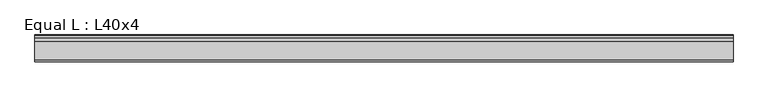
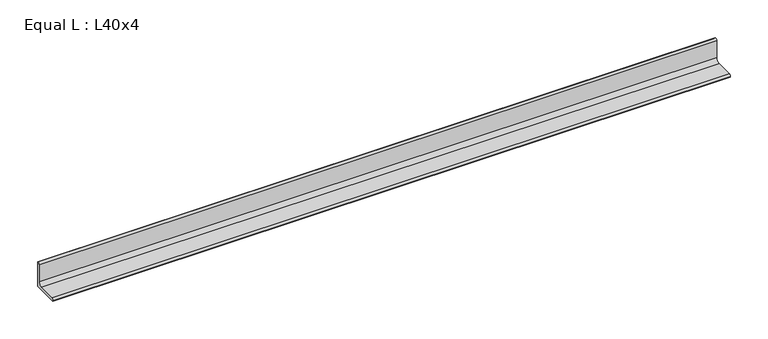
"""IFC4 building model written with IfcOpenShell, lengths in millimetres: beam geometry, Equal L : L40x4."""

import ifcopenshell
import ifcopenshell.guid

model = None  # the IFC model being written
_history = None  # IfcOwnerHistory: only IFC2X3 demands one
_inside = {}  # id of a spatial element -> (the spatial element, [elements in it])
_under = {}  # id of a project, library or spatial element -> (it, [spatial elements below it])
_declared = {}  # id of a project -> (the project, [libraries it declares])
_typed = {}  # id of a type object -> (the type object, [elements of that type])
_made_of = {}  # id of a material, layer set ... -> (it, [elements and type objects made of it])


def new_model(schema):
    """Start an empty IFC model of exactly this schema.

    Asked for "IFC4X3", IfcOpenShell would pick the latest addendum, in which some entities
    have other attributes; the version numbers below select the first issue.
    IFC2X3 requires an IfcOwnerHistory on every rooted entity: one is made here for all.
    """
    global model, _history
    if schema == "IFC4X3":
        model = ifcopenshell.file(schema_version=(4, 3, 0, 0))
    else:
        model = ifcopenshell.file(schema=schema)
    _inside.clear()
    _under.clear()
    _declared.clear()
    _typed.clear()
    _made_of.clear()
    _history = None
    if model.schema == "IFC2X3":
        org = make("IfcOrganization", Name="unknown")
        user = make(
            "IfcPersonAndOrganization",
            ThePerson=make("IfcPerson", FamilyName="unknown"),
            TheOrganization=org,
        )
        app = make(
            "IfcApplication",
            ApplicationDeveloper=org,
            Version="unknown",
            ApplicationFullName="unknown",
            ApplicationIdentifier="unknown",
        )
        _history = make(
            "IfcOwnerHistory",
            OwningUser=user,
            OwningApplication=app,
            ChangeAction="ADDED",
            CreationDate=0,
        )
    return model


def make(cls, **values):
    """One entity of the class cls with the attributes given. An attribute that is None is left unset."""
    return model.create_entity(
        cls, **{name: value for name, value in values.items() if value is not None}
    )


def rooted(cls, **values):
    """An entity with a GlobalId (a new one), such as an element, a storey or a relation."""
    return make(cls, GlobalId=ifcopenshell.guid.new(), OwnerHistory=_history, **values)


def si_unit(unit_type, name, prefix=None):
    """IfcSIUnit, for example si_unit("LENGTHUNIT", "METRE", prefix="MILLI")."""
    return make("IfcSIUnit", UnitType=unit_type, Prefix=prefix, Name=name)


def assignment(units):
    """IfcUnitAssignment: the units of a project."""
    return None if units is None else make("IfcUnitAssignment", Units=units)


def point(xyz):
    """IfcCartesianPoint."""
    return None if xyz is None else make("IfcCartesianPoint", Coordinates=xyz)


def direction(xyz):
    """IfcDirection."""
    return None if xyz is None else make("IfcDirection", DirectionRatios=xyz)


def frame(location, z_axis=None, x_axis=None):
    """IfcAxis2Placement3D, a coordinate frame: its origin and axes. An axis left out is left unset."""
    return make(
        "IfcAxis2Placement3D",
        Location=point(location),
        Axis=direction(z_axis),
        RefDirection=direction(x_axis),
    )


def frame_2d(location, x_axis=None):
    """IfcAxis2Placement2D, a coordinate frame in the plane: its origin and x axis."""
    return make(
        "IfcAxis2Placement2D", Location=point(location), RefDirection=direction(x_axis)
    )


def origin():
    """The frame at (0, 0, 0) with its axes left unset."""
    return frame((0.0, 0.0, 0.0))


def place(relative_to, where):
    """IfcLocalPlacement: puts the frame where relative to a parent placement (None: the world)."""
    return make(
        "IfcLocalPlacement", PlacementRelTo=relative_to, RelativePlacement=where
    )


def context(
    kind, dimensions, precision=None, world=None, true_north=None, identifier=None
):
    """IfcGeometricRepresentationContext, for example the 3D "Model" context."""
    return make(
        "IfcGeometricRepresentationContext",
        ContextIdentifier=identifier,
        ContextType=kind,
        CoordinateSpaceDimension=dimensions,
        Precision=precision,
        WorldCoordinateSystem=world,
        TrueNorth=true_north,
    )


def project(units=None, contexts=None):
    """IfcProject with its units and contexts."""
    return rooted(
        "IfcProject",
        Name="project",
        RepresentationContexts=contexts,
        UnitsInContext=assignment(units),
    )


def spatial(cls, under=None, at=None, **own):
    """A site, building, storey or space (cls), placed at a placement, below another one or the project."""
    s = rooted(cls, ObjectPlacement=at, **own)
    if under is not None:
        _under.setdefault(under.id(), (under, []))[1].append(s)
    return s


def polyline(points):
    """IfcPolyline through the points."""
    return make("IfcPolyline", Points=[point(p) for p in points])


def circle_curve(where, radius):
    """IfcCircle in the frame where."""
    return make("IfcCircle", Position=where, Radius=radius)


def trimmed(basis, trim1, trim2, sense, master):
    """IfcTrimmedCurve: the piece of a basis curve between two trims."""
    return make(
        "IfcTrimmedCurve",
        BasisCurve=basis,
        Trim1=trim1,
        Trim2=trim2,
        SenseAgreement=sense,
        MasterRepresentation=master,
    )


def segment(curve, same_sense, transition):
    """IfcCompositeCurveSegment."""
    return make(
        "IfcCompositeCurveSegment",
        Transition=transition,
        SameSense=same_sense,
        ParentCurve=curve,
    )


def composite_curve(segments, self_intersect=None):
    """IfcCompositeCurve: segments joined end to end."""
    return make("IfcCompositeCurve", Segments=segments, SelfIntersect=self_intersect)


def outline(outer, holes=None, kind="AREA"):
    """IfcArbitraryClosedProfileDef: a profile drawn as a closed curve; with holes, ...WithVoids."""
    if holes is None:
        return make("IfcArbitraryClosedProfileDef", ProfileType=kind, OuterCurve=outer)
    return make(
        "IfcArbitraryProfileDefWithVoids",
        ProfileType=kind,
        OuterCurve=outer,
        InnerCurves=holes,
    )


def extrude(swept, where, along, depth):
    """IfcExtrudedAreaSolid: the profile swept, set in the frame where, extruded along a direction by depth."""
    return make(
        "IfcExtrudedAreaSolid",
        SweptArea=swept,
        Position=where,
        ExtrudedDirection=direction(along),
        Depth=depth,
    )


def shape(context_of_items, identifier, shape_type, items):
    """IfcShapeRepresentation: the items that make up one representation, for example the "Body"."""
    return make(
        "IfcShapeRepresentation",
        ContextOfItems=context_of_items,
        RepresentationIdentifier=identifier,
        RepresentationType=shape_type,
        Items=items,
    )


def source(mapping_origin, context_of_items, identifier, shape_type, items):
    """IfcRepresentationMap: a shape defined once, which mapped items show again and again."""
    return make(
        "IfcRepresentationMap",
        MappingOrigin=mapping_origin,
        MappedRepresentation=shape(context_of_items, identifier, shape_type, items),
    )


def transform(
    local_origin,
    x_axis=None,
    y_axis=None,
    z_axis=None,
    scale=None,
    scale2=None,
    scale3=None,
    uniform=True,
):
    """IfcCartesianTransformationOperator3D, or its non-uniform kind. x_axis, y_axis, z_axis: its Axis1, 2, 3."""
    if uniform:
        return make(
            "IfcCartesianTransformationOperator3D",
            Axis1=direction(x_axis),
            Axis2=direction(y_axis),
            LocalOrigin=point(local_origin),
            Scale=scale,
            Axis3=direction(z_axis),
        )
    return make(
        "IfcCartesianTransformationOperator3DnonUniform",
        Axis1=direction(x_axis),
        Axis2=direction(y_axis),
        LocalOrigin=point(local_origin),
        Scale=scale,
        Axis3=direction(z_axis),
        Scale2=scale2,
        Scale3=scale3,
    )


def mapped(mapping_source, mapping_target):
    """IfcMappedItem: shows the shape of a source again, moved by a transform."""
    return make(
        "IfcMappedItem", MappingSource=mapping_source, MappingTarget=mapping_target
    )


def made_of(thing, what):
    """Note that an element or type object is made of a material, layer set ...; save() writes the relation."""
    if what is not None:
        _made_of.setdefault(what.id(), (what, []))[1].append(thing)
    return thing


def element(
    cls,
    number,
    at=None,
    inside=None,
    cuts=None,
    type_object=None,
    material=None,
    context=None,
    identifier="Body",
    shape_type=None,
    held_by="IfcProductDefinitionShape",
    body=None,
    shapes=None,
    **own,
):
    """One element of the class cls, such as IfcWall. Its Tag is "e" and its number.

    at: its placement. inside: the storey or other place that contains it. cuts: it is an
    opening in that element (IfcRelVoidsElement). A single representation is given by context,
    identifier, shape_type and body (its items); several are given by shapes. held_by: the class
    of the entity that holds the representations. save() writes the other relations.
    """
    e = rooted(cls, Tag="e%d" % number, ObjectPlacement=at, **own)
    if body is not None:
        shapes = [shape(context, identifier, shape_type, body)]
    if shapes is not None:
        e.Representation = make(held_by, Representations=shapes)
    if inside is not None:
        _inside.setdefault(inside.id(), (inside, []))[1].append(e)
    if cuts is not None:
        rooted(
            "IfcRelVoidsElement", RelatingBuildingElement=cuts, RelatedOpeningElement=e
        )
    if type_object is not None:
        _typed.setdefault(type_object.id(), (type_object, []))[1].append(e)
    return made_of(e, material)


def aggregate(whole, parts):
    """IfcRelAggregates: a whole, such as a stair, and the parts it consists of."""
    return rooted("IfcRelAggregates", RelatingObject=whole, RelatedObjects=parts)


def save(model, path):
    """Write the relations noted so far, then the file.

    IfcRelAggregates (storeys below a building ...), IfcRelContainedInSpatialStructure (elements
    in a storey), IfcRelDefinesByType, IfcRelAssociatesMaterial and IfcRelDeclares: one each for
    every whole, place, type object, material and project.
    """
    for whole, parts in _under.values():
        aggregate(whole, parts)
    for where, things in _inside.values():
        rooted(
            "IfcRelContainedInSpatialStructure",
            RelatedElements=things,
            RelatingStructure=where,
        )
    for kind, things in _typed.values():
        rooted("IfcRelDefinesByType", RelatedObjects=things, RelatingType=kind)
    for what, things in _made_of.values():
        rooted("IfcRelAssociatesMaterial", RelatedObjects=things, RelatingMaterial=what)
    for by, libraries in _declared.values():
        rooted("IfcRelDeclares", RelatingContext=by, RelatedDefinitions=libraries)
    model.write(path)


def equal_l_l40x4_a2c7a736(model_context):
    return source(origin(), model_context, "Body", "SweptSolid", [
        extrude(outline(composite_curve([segment(polyline([(11.2, -11.2), (-28.8, -11.2), (-28.8, -10.2)]), True, "CONTINUOUS"), segment(trimmed(circle_curve(frame_2d((-25.8, -10.2)), 3.0), [point((-28.8, -10.2))], [point((-25.8, -7.2))], False, "CARTESIAN"), True, "CONTINUOUS"), segment(polyline([(-25.8, -7.2), (1.2, -7.2)]), True, "CONTINUOUS"), segment(trimmed(circle_curve(frame_2d((1.2, -1.2)), 6.0), [point((1.2, -7.2))], [point((7.2, -1.2))], True, "CARTESIAN"), True, "CONTINUOUS"), segment(polyline([(7.2, -1.2), (7.2, 25.8)]), True, "CONTINUOUS"), segment(trimmed(circle_curve(frame_2d((10.2, 25.8)), 3.0), [point((7.2, 25.8))], [point((10.2, 28.8))], False, "CARTESIAN"), True, "CONTINUOUS"), segment(polyline([(10.2, 28.8), (11.2, 28.8), (11.2, -11.2)]), True, "CONTINUOUS")], self_intersect=False)), frame((-519.6, 0.0, 0.0), z_axis=(1.0, 0.0, 0.0), x_axis=(0.0, 1.0, 0.0)), (0.0, 0.0, 1.0), 1039.2),
    ])


if __name__ == "__main__":
    model = new_model("IFC4")
    model_context = context("Model", 3, world=origin())
    ifc_project = project(units=[si_unit("LENGTHUNIT", "METRE", prefix="MILLI")], contexts=[model_context])
    site = spatial("IfcSite", under=ifc_project)
    building = spatial("IfcBuilding", under=site)
    placement = place(None, origin())
    equal_l_l40x4_shape = equal_l_l40x4_a2c7a736(model_context)
    element("IfcBeam", 1, ObjectType="Equal L : L40x4", at=placement, inside=building, context=model_context, shape_type="MappedRepresentation", body=[
        mapped(equal_l_l40x4_shape, transform((0.0, 0.0, 0.0), x_axis=(1.0, 0.0, 0.0), y_axis=(0.0, 1.0, 0.0), z_axis=(0.0, 0.0, 1.0))),
    ])
    save(model, "model.ifc")
